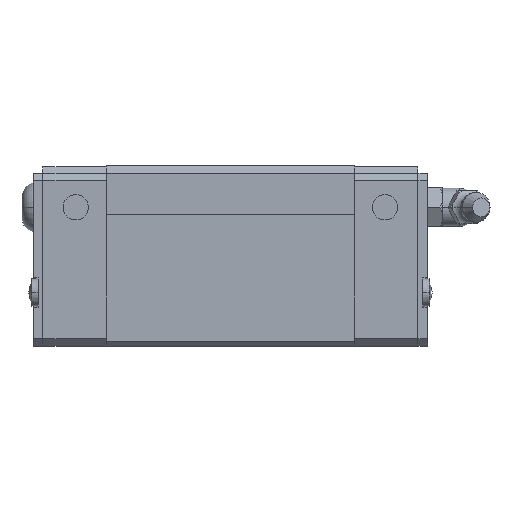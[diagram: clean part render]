
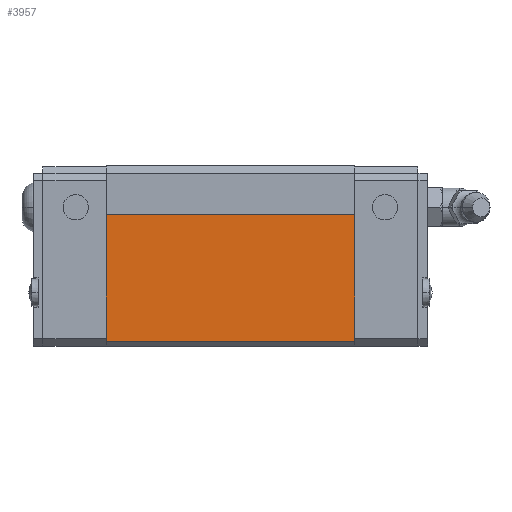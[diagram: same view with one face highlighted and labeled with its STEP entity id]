
A CAD part, left-side view. The second image highlights one B-rep face of the part: STEP entity #3957.
In plain terms, the highlighted planar face has unit normal (-1, 0, 0).
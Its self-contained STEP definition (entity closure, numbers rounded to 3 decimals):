
#2649=VERTEX_POINT('',#6424);
#3469=EDGE_CURVE('',#2649,#5001,#7326,.T.);
#3957=ADVANCED_FACE('',(#7861),#7862,.T.);
#3959=VERTEX_POINT('',#7864);
#4855=EDGE_CURVE('',#3959,#5263,#8864,.T.);
#5001=VERTEX_POINT('',#9024);
#5003=EDGE_CURVE('',#2649,#5263,#9026,.T.);
#5263=VERTEX_POINT('',#9311);
#5483=EDGE_CURVE('',#5001,#3959,#9553,.T.);
#6424=CARTESIAN_POINT('',(-34.5,15.0,38.0));
#7326=LINE('',#12625,#12626);
#7861=FACE_OUTER_BOUND('',#13520,.T.);
#7862=PLANE('',#13521);
#7864=CARTESIAN_POINT('',(-34.5,66.0,12.0));
#8864=LINE('',#15185,#15186);
#9024=CARTESIAN_POINT('',(-34.5,15.0,12.0));
#9026=LINE('',#15450,#15451);
#9311=CARTESIAN_POINT('',(-34.5,66.0,38.0));
#9553=LINE('',#16257,#16258);
#12625=CARTESIAN_POINT('',(-34.5,15.0,21.75));
#12626=VECTOR('',#18371,1.0);
#13520=EDGE_LOOP('',(#18963,#18964,#18965,#18966));
#13521=AXIS2_PLACEMENT_3D('',#18967,#18968,#18969);
#15185=CARTESIAN_POINT('',(-34.5,66.0,21.75));
#15186=VECTOR('',#20123,1.0);
#15450=CARTESIAN_POINT('',(-34.5,40.5,38.0));
#15451=VECTOR('',#20302,1.0);
#16257=CARTESIAN_POINT('',(-34.5,53.25,12.0));
#16258=VECTOR('',#20836,1.0);
#18371=DIRECTION('',(-0.0,-0.0,-1.0));
#18963=ORIENTED_EDGE('',*,*,#4855,.F.);
#18964=ORIENTED_EDGE('',*,*,#5483,.F.);
#18965=ORIENTED_EDGE('',*,*,#3469,.F.);
#18966=ORIENTED_EDGE('',*,*,#5003,.T.);
#18967=CARTESIAN_POINT('',(-34.5,40.5,14.0));
#18968=DIRECTION('',(-1.0,0.0,0.0));
#18969=DIRECTION('',(0.0,0.0,1.0));
#20123=DIRECTION('',(0.0,0.0,1.0));
#20302=DIRECTION('',(0.0,1.0,0.0));
#20836=DIRECTION('',(0.0,1.0,-0.0));
